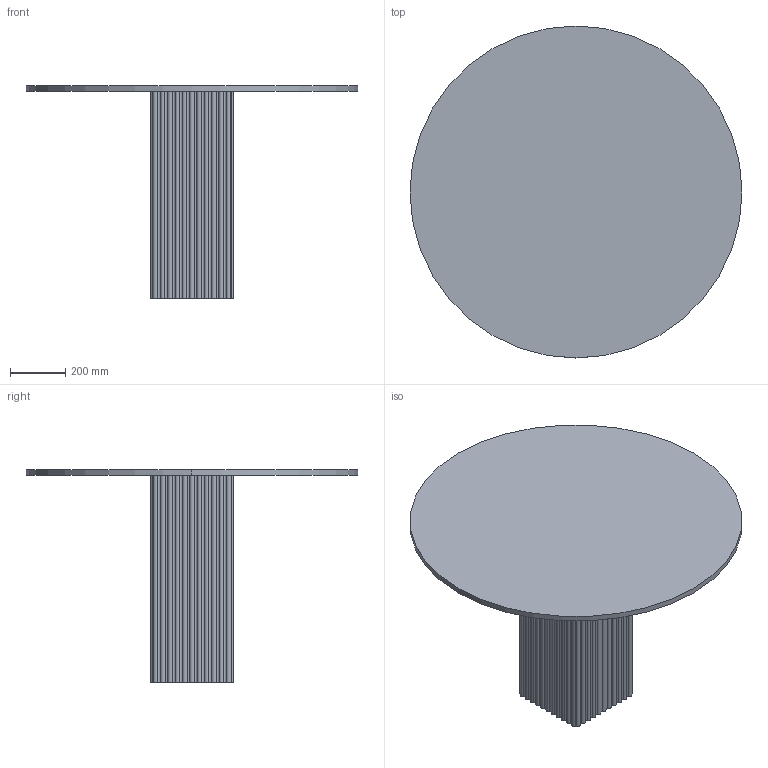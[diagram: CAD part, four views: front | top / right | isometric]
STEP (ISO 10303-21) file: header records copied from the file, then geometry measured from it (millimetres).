
FILE_DESCRIPTION(/* description */ (''),/* implementation_level */ '2;1');
FILE_NAME(/* name */ 'Soho-Dining-Table_120cm_NORR11',/* time_stamp */ '2024-11-15T13:03:46+01:00',/* author */ (''),/* organization */ (''),/* preprocessor_version */ 'ST-DEVELOPER v19.2',/* originating_system */ 'Rhino 8.13',/* authorisation */ '');
FILE_SCHEMA (('CONFIG_CONTROL_DESIGN'));
Length unit declared in the file: millimetre
Products named in the file (1): Document
Bounding box: 1200 x 1200 x 768.59 mm (x, y, z)
Volume: 86483785.5 mm3; surface area: 3585451.6 mm2
Topology: 2 solids, 2 shells, 94 faces, 270 edges, 180 vertices
Faces by surface type: cylinder 90, plane 4
Entity records: 3634 total; most frequent: CARTESIAN_POINT 996, ORIENTED_EDGE 540, DIRECTION 458, AXIS2_PLACEMENT_3D 276, EDGE_CURVE 270, TRIMMED_CURVE 180, CIRCLE 180, VERTEX_POINT 180
